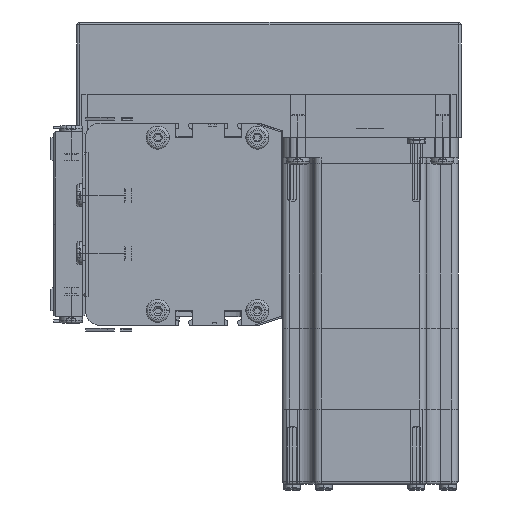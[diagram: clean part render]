
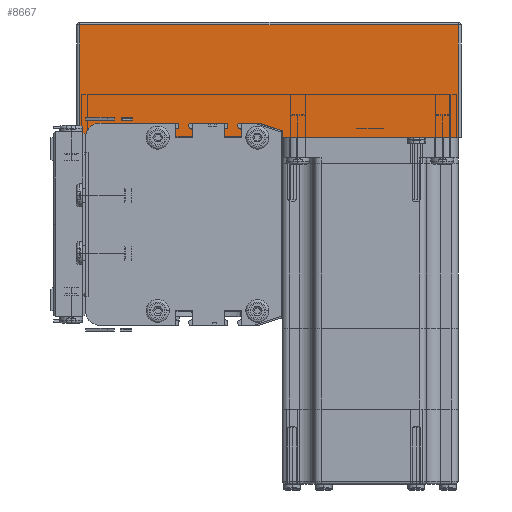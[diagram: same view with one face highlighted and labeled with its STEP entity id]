
A CAD part, left-side view. The second image highlights one B-rep face of the part: STEP entity #8667.
In plain terms, the highlighted planar face has unit normal (-1, 0, 0) as drawn and (0, 1, 0) by its records, which use the part's own axes.
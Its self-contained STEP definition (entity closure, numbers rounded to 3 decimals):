
#8599 = VERTEX_POINT ( 'NONE', #13171 ) ;
#8659 = EDGE_CURVE ( 'NONE', #8940, #8599, #13548, .T. ) ;
#8667 = ADVANCED_FACE ( 'NONE', ( #13547 ), #13543, .F. ) ;
#8670 = EDGE_CURVE ( 'NONE', #8951, #8940, #13450, .T. ) ;
#8671 = ORIENTED_EDGE ( 'NONE', *, *, #8702, .T. ) ;
#8673 = ORIENTED_EDGE ( 'NONE', *, *, #8659, .T. ) ;
#8688 = VERTEX_POINT ( 'NONE', #13535 ) ;
#8702 = EDGE_CURVE ( 'NONE', #8599, #8688, #13563, .T. ) ;
#8940 = VERTEX_POINT ( 'NONE', #13610 ) ;
#8947 = EDGE_CURVE ( 'NONE', #8688, #8951, #13678, .T. ) ;
#8951 = VERTEX_POINT ( 'NONE', #13686 ) ;
#8953 = EDGE_LOOP ( 'NONE', ( #9193, #8673, #8671, #9105 ) ) ;
#9105 = ORIENTED_EDGE ( 'NONE', *, *, #8947, .T. ) ;
#9193 = ORIENTED_EDGE ( 'NONE', *, *, #8670, .T. ) ;
#13171 = CARTESIAN_POINT ( 'NONE',  ( 132., 62., 0. ) ) ;
#13447 = DIRECTION ( 'NONE',  ( 1., 0., 0. ) ) ;
#13448 = VECTOR ( 'NONE', #13447, 1000. ) ;
#13449 = CARTESIAN_POINT ( 'NONE',  ( 0., 62., 39. ) ) ;
#13450 = LINE ( 'NONE', #13449, #13448 ) ;
#13451 = DIRECTION ( 'NONE',  ( 0., 0., -1. ) ) ;
#13508 = AXIS2_PLACEMENT_3D ( 'NONE', #13549, #13512, #13451 ) ;
#13512 = DIRECTION ( 'NONE',  ( 0., -1., 0. ) ) ;
#13535 = CARTESIAN_POINT ( 'NONE',  ( 1., 62., 0. ) ) ;
#13543 = PLANE ( 'NONE',  #13508 ) ;
#13544 = DIRECTION ( 'NONE',  ( 0., 0., -1. ) ) ;
#13545 = VECTOR ( 'NONE', #13544, 1000. ) ;
#13546 = CARTESIAN_POINT ( 'NONE',  ( 132., 62., 40. ) ) ;
#13547 = FACE_OUTER_BOUND ( 'NONE', #8953, .T. ) ;
#13548 = LINE ( 'NONE', #13546, #13545 ) ;
#13549 = CARTESIAN_POINT ( 'NONE',  ( 0., 62., 40. ) ) ;
#13556 = DIRECTION ( 'NONE',  ( -1., 0., 0. ) ) ;
#13557 = VECTOR ( 'NONE', #13556, 1000. ) ;
#13562 = CARTESIAN_POINT ( 'NONE',  ( 0., 62., 0. ) ) ;
#13563 = LINE ( 'NONE', #13562, #13557 ) ;
#13610 = CARTESIAN_POINT ( 'NONE',  ( 132., 62., 39. ) ) ;
#13675 = DIRECTION ( 'NONE',  ( 0., 0., 1. ) ) ;
#13676 = VECTOR ( 'NONE', #13675, 1000. ) ;
#13677 = CARTESIAN_POINT ( 'NONE',  ( 1., 62., 40. ) ) ;
#13678 = LINE ( 'NONE', #13677, #13676 ) ;
#13686 = CARTESIAN_POINT ( 'NONE',  ( 1., 62., 39. ) ) ;
